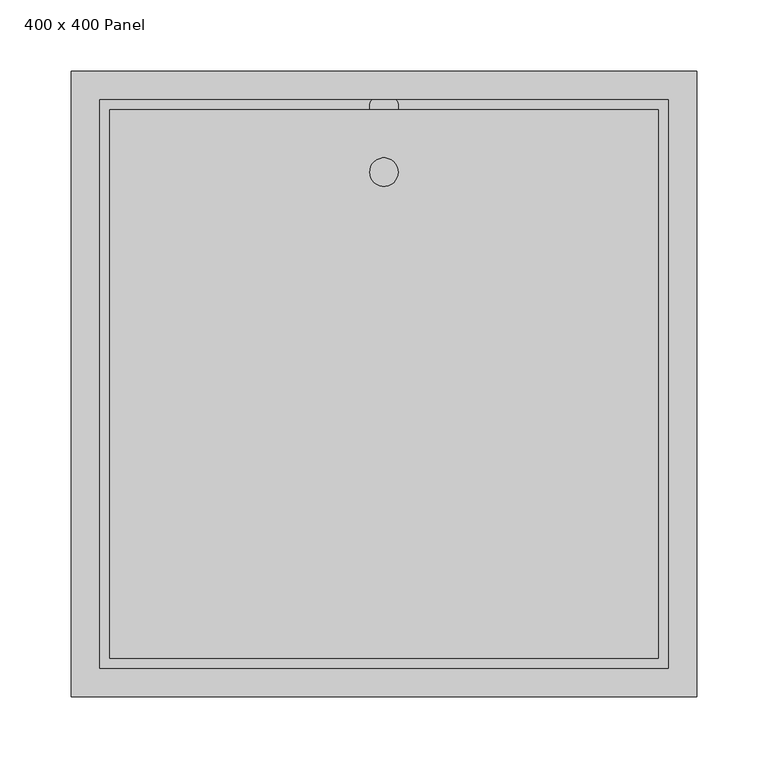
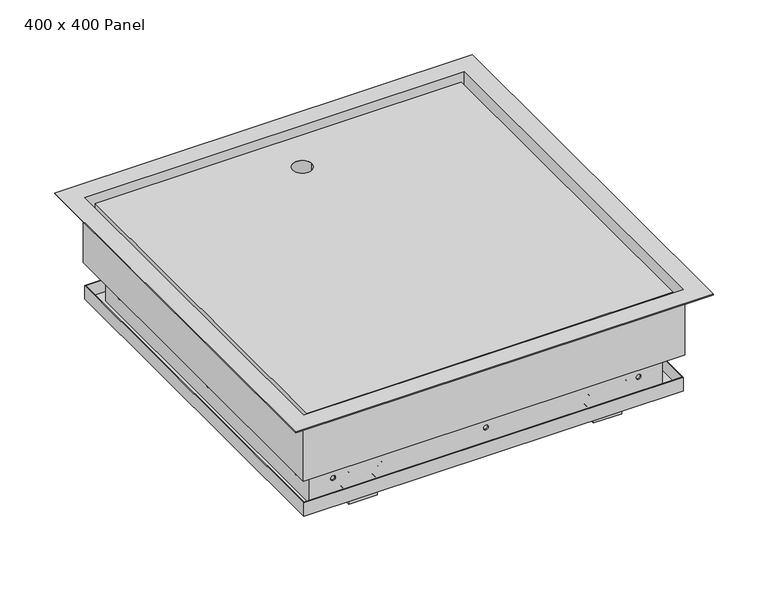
"""IFC4 building model written with IfcOpenShell, lengths in millimetres: proxy geometry, 400 x 400 Fyreshield : 400 x 400 Panel."""

from ifc_helpers import new_model, si_unit, point, frame, frame_2d, origin, place, context, project, spatial, polyline, circle_curve, trimmed, segment, composite_curve, outline, extrude, source, transform, mapped, element, save
from ifc_brep_helpers import plane_surface, revolved_surface, advanced_brep


def proxy_400_x_400_panel_ea238106(model_context):
    return source(origin(), model_context, "Body", "SolidModel", [
        extrude(outline(composite_curve([segment(polyline([(169.0, -45.0), (154.0, -45.0)]), True, "CONTINUOUS"), segment(trimmed(circle_curve(frame_2d((129.0, -45.0)), 25.0), [point((154.0, -45.0))], [point((104.0, -45.0))], False, "CARTESIAN"), True, "CONTINUOUS"), segment(polyline([(104.0, -45.0), (89.0, -45.0), (89.0, -25.0), (129.0, -25.0), (169.0, -25.0), (169.0, -45.0)]), True, "CONTINUOUS")], self_intersect=False)), frame((0.0, 0.0, -73.0), z_axis=(0.0, 0.0, 1.0), x_axis=(1.0, 0.0, 0.0)), (0.0, 0.0, 1.0), 2.0),
        extrude(outline(composite_curve([segment(polyline([(-169.0, -45.0), (-169.0, -25.0), (-129.0, -25.0), (-89.0, -25.0), (-89.0, -45.0), (-104.0, -45.0)]), True, "CONTINUOUS"), segment(trimmed(circle_curve(frame_2d((-129.0, -45.0)), 25.0), [point((-104.0, -45.0))], [point((-154.0, -45.0))], False, "CARTESIAN"), True, "CONTINUOUS"), segment(polyline([(-154.0, -45.0), (-169.0, -45.0)]), True, "CONTINUOUS")], self_intersect=False)), frame((0.0, 0.0, -73.0), z_axis=(0.0, 0.0, 1.0), x_axis=(1.0, 0.0, 0.0)), (0.0, 0.0, 1.0), 2.0),
        extrude(outline(composite_curve([segment(trimmed(circle_curve(frame_2d((-65.0, -79.3136739)), 5.0), [point((-70.0, -79.3136739))], [point((-65.0, -74.3136739))], False, "CARTESIAN"), True, "CONTINUOUS"), segment(polyline([(-65.0, -74.3136739), (-48.5, -72.0), (-34.3304501, -72.0), (-34.3304501, -77.4449364)]), True, "CONTINUOUS"), segment(trimmed(circle_curve(frame_2d((-39.3304501, -77.4449364)), 5.0), [point((-34.3304501, -77.4449364))], [point((-39.3304501, -82.4449364))], False, "CARTESIAN"), True, "CONTINUOUS"), segment(polyline([(-39.3304501, -82.4449364), (-57.5, -82.4449364)]), True, "CONTINUOUS"), segment(trimmed(circle_curve(frame_2d((-57.5, -84.9449364)), 2.5), [point((-57.5, -82.4449364))], [point((-60.0, -84.9449364))], True, "CARTESIAN"), True, "CONTINUOUS"), segment(polyline([(-60.0, -84.9449364), (-60.0, -86.8136739), (-70.0, -86.8136739), (-70.0, -79.3136739)]), True, "CONTINUOUS")], self_intersect=False)), frame((-139.0, 0.0, 0.0), z_axis=(1.0, 0.0, 0.0), x_axis=(0.0, 1.0, 0.0)), (0.0, 0.0, 1.0), 20.0),
        advanced_brep(
        [(143.760434, -85.0, -93.2011546), (143.760434, -80.0, -93.2011546), (148.760434, -80.0, -93.2011546), (148.760434, -85.0, -93.2011546), (148.760434, -85.0, -102.1125194), (148.760434, -80.0, -102.1125194), (148.760434, -80.0, -107.1125194), (148.760434, -85.0, -107.1125194), (143.760434, -80.0, -107.1125194), (143.760434, -85.0, -107.1125194), (143.760434, -80.0, -102.1125194), (143.760434, -85.0, -102.1125194), (114.239566, -85.0, -93.2011546), (114.239566, -80.0, -93.2011546), (109.239566, -80.0, -93.2011546), (109.239566, -85.0, -93.2011546), (109.239566, -85.0, -107.1125194), (109.239566, -80.0, -107.1125194), (109.239566, -80.0, -102.1125194), (109.239566, -85.0, -102.1125194), (114.239566, -85.0, -107.1125194), (114.239566, -80.0, -107.1125194), (114.239566, -85.0, -102.1125194), (114.239566, -80.0, -102.1125194), (139.0, -80.0, -86.8136739), (139.0, -60.0, -86.8136739), (119.0, -60.0, -86.8136739), (119.0, -80.0, -86.8136739), (104.0, -80.0, -86.8136739), (104.0, -85.0, -86.8136739), (154.0, -85.0, -86.8136739), (154.0, -80.0, -86.8136739), (144.0, -80.0, -127.128369), (144.0, -85.0, -127.128369), (114.0, -85.0, -127.128369), (114.0, -80.0, -127.128369), (119.0, -80.0, -127.128369), (119.0, -60.0, -127.128369), (139.0, -60.0, -127.128369), (139.0, -80.0, -127.128369), (144.0, -85.0, -114.5), (146.5, -85.0, -112.0), (154.0, -85.0, -112.0), (104.0, -85.0, -112.0), (111.5, -85.0, -112.0), (114.0, -85.0, -114.5), (114.0, -80.0, -114.5), (111.5, -80.0, -112.0), (104.0, -80.0, -112.0), (154.0, -80.0, -112.0), (146.5, -80.0, -112.0), (144.0, -80.0, -114.5)],
        [
            (0, 1),
            (1, 2, circle_curve(frame((146.260434, -80.0, -93.2011546), z_axis=(0.0, 1.0, 0.0), x_axis=(1.0, 0.0, 0.0)), 2.5)),
            (2, 3),
            (3, 0, circle_curve(frame((146.260434, -85.0, -93.2011546), z_axis=(0.0, -1.0, 0.0), x_axis=(1.0, 0.0, 0.0)), 2.5)),
            (0, 3, circle_curve(frame((146.260434, -85.0, -93.2011546), z_axis=(0.0, -1.0, 0.0), x_axis=(1.0, 0.0, 0.0)), 2.5)),
            (2, 1, circle_curve(frame((146.260434, -80.0, -93.2011546), z_axis=(0.0, 1.0, 0.0), x_axis=(1.0, 0.0, 0.0)), 2.5)),
            (4, 5),
            (5, 6, circle_curve(frame((148.760434, -80.0, -104.6125194), z_axis=(0.0, 1.0, 0.0), x_axis=(1.0, 0.0, 0.0)), 2.5)),
            (6, 7),
            (7, 4, circle_curve(frame((148.760434, -85.0, -104.6125194), z_axis=(0.0, -1.0, 0.0), x_axis=(1.0, 0.0, 0.0)), 2.5)),
            (6, 8),
            (8, 9),
            (9, 7),
            (8, 10, circle_curve(frame((143.760434, -80.0, -104.6125194), z_axis=(0.0, 1.0, 0.0), x_axis=(1.0, 0.0, 0.0)), 2.5)),
            (10, 11),
            (11, 9, circle_curve(frame((143.760434, -85.0, -104.6125194), z_axis=(0.0, -1.0, 0.0), x_axis=(1.0, 0.0, 0.0)), 2.5)),
            (4, 11),
            (10, 5),
            (12, 13),
            (13, 14, circle_curve(frame((111.739566, -80.0, -93.2011546), z_axis=(0.0, 1.0, 0.0), x_axis=(1.0, 0.0, 0.0)), 2.5)),
            (14, 15),
            (15, 12, circle_curve(frame((111.739566, -85.0, -93.2011546), z_axis=(0.0, -1.0, 0.0), x_axis=(1.0, 0.0, 0.0)), 2.5)),
            (12, 15, circle_curve(frame((111.739566, -85.0, -93.2011546), z_axis=(0.0, -1.0, 0.0), x_axis=(1.0, 0.0, 0.0)), 2.5)),
            (14, 13, circle_curve(frame((111.739566, -80.0, -93.2011546), z_axis=(0.0, 1.0, 0.0), x_axis=(1.0, 0.0, 0.0)), 2.5)),
            (16, 17),
            (17, 18, circle_curve(frame((109.239566, -80.0, -104.6125194), z_axis=(0.0, 1.0, 0.0), x_axis=(1.0, 0.0, 0.0)), 2.5)),
            (18, 19),
            (19, 16, circle_curve(frame((109.239566, -85.0, -104.6125194), z_axis=(0.0, -1.0, 0.0), x_axis=(1.0, 0.0, 0.0)), 2.5)),
            (16, 20),
            (20, 21),
            (21, 17),
            (20, 22, circle_curve(frame((114.239566, -85.0, -104.6125194), z_axis=(0.0, -1.0, 0.0), x_axis=(1.0, 0.0, 0.0)), 2.5)),
            (22, 23),
            (23, 21, circle_curve(frame((114.239566, -80.0, -104.6125194), z_axis=(0.0, 1.0, 0.0), x_axis=(1.0, 0.0, 0.0)), 2.5)),
            (18, 23),
            (22, 19),
            (24, 25),
            (25, 26),
            (26, 27),
            (27, 28),
            (28, 29),
            (29, 30),
            (30, 31),
            (31, 24),
            (32, 33),
            (33, 34),
            (34, 35),
            (35, 36),
            (36, 37),
            (37, 38),
            (38, 39),
            (39, 32),
            (33, 40),
            (40, 41, circle_curve(frame((146.5, -85.0, -114.5), z_axis=(0.0, 1.0, 0.0), x_axis=(-1.0, 0.0, 0.0)), 2.5)),
            (41, 42),
            (42, 30),
            (29, 43),
            (43, 44),
            (44, 45, circle_curve(frame((111.5, -85.0, -114.5), z_axis=(0.0, 1.0, 0.0), x_axis=(-1.0, 0.0, 0.0)), 2.5)),
            (45, 34),
            (35, 46),
            (46, 47, circle_curve(frame((111.5, -80.0, -114.5), z_axis=(0.0, -1.0, 0.0), x_axis=(-1.0, 0.0, 0.0)), 2.5)),
            (47, 48),
            (48, 28),
            (27, 36),
            (39, 24),
            (31, 49),
            (49, 50),
            (50, 51, circle_curve(frame((146.5, -80.0, -114.5), z_axis=(0.0, -1.0, 0.0), x_axis=(-1.0, 0.0, 0.0)), 2.5)),
            (51, 32),
            (38, 25),
            (37, 26),
            (45, 46),
            (51, 40),
            (48, 43),
            (44, 47),
            (41, 50),
            (49, 42),
        ],
        [
            revolved_surface(polyline([(148.760434, -85.0, -93.2011546), (148.760434, -80.0, -93.2011546)]), (146.260434, -80.0, -93.2011546), (0.0, -1.0, 0.0)),
            revolved_surface(polyline([(151.260434, -85.0, -104.6125194), (151.260434, -80.0, -104.6125194)]), (148.760434, -80.0, -104.6125194), (0.0, -1.0, 0.0)),
            plane_surface(frame((143.760434, -85.0, -107.1125194), z_axis=(0.0, 0.0, 1.0), x_axis=(0.0, 1.0, 0.0))),
            revolved_surface(polyline([(146.260434, -85.0, -104.6125194), (146.260434, -80.0, -104.6125194)]), (143.760434, -80.0, -104.6125194), (0.0, -1.0, 0.0)),
            plane_surface(frame((148.760434, -85.0, -102.1125194), z_axis=(0.0, 0.0, -1.0), x_axis=(0.0, 1.0, 0.0))),
            revolved_surface(polyline([(114.239566, -85.0, -93.2011546), (114.239566, -80.0, -93.2011546)]), (111.739566, -80.0, -93.2011546), (0.0, -1.0, 0.0)),
            revolved_surface(polyline([(111.739566, -85.0, -104.6125194), (111.739566, -80.0, -104.6125194)]), (109.239566, -80.0, -104.6125194), (0.0, -1.0, 0.0)),
            plane_surface(frame((109.239566, -85.0, -107.1125194), z_axis=(0.0, 0.0, 1.0), x_axis=(0.0, 1.0, 0.0))),
            revolved_surface(polyline([(116.739566, -85.0, -104.6125194), (116.739566, -80.0, -104.6125194)]), (114.239566, -80.0, -104.6125194), (0.0, -1.0, 0.0)),
            plane_surface(frame((114.239566, -85.0, -102.1125194), z_axis=(0.0, 0.0, -1.0), x_axis=(0.0, 1.0, 0.0))),
            plane_surface(frame((-144.0, -85.0, -86.8136739), z_axis=(0.0, 0.0, 1.0), x_axis=(0.0, -1.0, 0.0))),
            plane_surface(frame((-144.0, -85.0, -127.128369), z_axis=(0.0, 0.0, -1.0), x_axis=(0.0, 1.0, 0.0))),
            plane_surface(frame((-144.0, -85.0, -86.8136739), z_axis=(0.0, -1.0, 0.0), x_axis=(0.0, 0.0, -1.0))),
            plane_surface(frame((-114.0, -80.0, -86.8136739), z_axis=(0.0, 1.0, 0.0), x_axis=(0.0, 0.0, -1.0))),
            plane_surface(frame((139.0, -80.0, -86.8136739), z_axis=(1.0, 0.0, 0.0), x_axis=(0.0, 0.0, -1.0))),
            plane_surface(frame((139.0, -60.0, -86.8136739), z_axis=(0.0, 1.0, 0.0), x_axis=(0.0, 0.0, -1.0))),
            plane_surface(frame((119.0, -60.0, -86.8136739), z_axis=(-1.0, 0.0, 0.0), x_axis=(0.0, 0.0, -1.0))),
            plane_surface(frame((114.0, -80.0, -86.8136739), z_axis=(-1.0, 0.0, 0.0), x_axis=(0.0, 0.0, -1.0))),
            plane_surface(frame((144.0, -85.0, -86.8136739), z_axis=(1.0, 0.0, 0.0), x_axis=(0.0, 0.0, -1.0))),
            plane_surface(frame((104.0, -80.0, -112.0), z_axis=(-1.0, 0.0, 0.0), x_axis=(0.0, -1.0, 0.0))),
            revolved_surface(polyline([(109.0, -85.0, -114.5), (109.0, -80.0, -114.5)]), (111.5, -85.0, -114.5), (0.0, -1.0, 0.0)),
            plane_surface(frame((111.5, -80.0, -112.0), z_axis=(0.0, 0.0, -1.0), x_axis=(0.0, -1.0, 0.0))),
            plane_surface(frame((154.0, -80.0, -112.0), z_axis=(0.0, 0.0, -1.0), x_axis=(0.0, -1.0, 0.0))),
            revolved_surface(polyline([(144.0, -85.0, -114.5), (144.0, -80.0, -114.5)]), (146.5, -80.0, -114.5), (0.0, -1.0, 0.0)),
            plane_surface(frame((154.0, -80.0, -86.8136739), z_axis=(1.0, 0.0, 0.0), x_axis=(0.0, -1.0, 0.0))),
        ],
        [
            (0, [[1, 2, 3, 4]]),
            (0, [[-1, 5, -3, 6]]),
            (1, [[7, 8, 9, 10]]),
            (2, [[-9, 11, 12, 13]]),
            (3, [[-12, 14, 15, 16]]),
            (4, [[-7, 17, -15, 18]]),
            (5, [[19, 20, 21, 22]]),
            (5, [[-19, 23, -21, 24]]),
            (6, [[25, 26, 27, 28]]),
            (7, [[-25, 29, 30, 31]]),
            (8, [[-30, 32, 33, 34]]),
            (9, [[-27, 35, -33, 36]]),
            (10, [[37, 38, 39, 40, 41, 42, 43, 44]]),
            (11, [[45, 46, 47, 48, 49, 50, 51, 52]]),
            (12, [[-46, 53, 54, 55, 56, -42, 57, 58, 59, 60], [-4, -5], [-10, -13, -16, -17], [-22, -23], [-28, -36, -32, -29]]),
            (13, [[-48, 61, 62, 63, 64, -40, 65], [-20, -24], [-26, -31, -34, -35]]),
            (13, [[-52, 66, -44, 67, 68, 69, 70], [-2, -6], [-8, -18, -14, -11]]),
            (14, [[-37, -66, -51, 71]]),
            (15, [[-38, -71, -50, 72]]),
            (16, [[-39, -72, -49, -65]]),
            (17, [[-47, -60, 73, -61]]),
            (18, [[-45, -70, 74, -53]]),
            (19, [[-57, -41, -64, 75]]),
            (20, [[-59, 76, -62, -73]]),
            (21, [[-58, -75, -63, -76]]),
            (22, [[-55, 77, -68, 78]]),
            (23, [[-54, -74, -69, -77]]),
            (24, [[-56, -78, -67, -43]]),
        ],
    ),
        advanced_brep(
        [(-119.0, -80.0, -86.8136739), (-119.0, -60.0, -86.8136739), (-139.0, -60.0, -86.8136739), (-139.0, -80.0, -86.8136739), (-154.0, -80.0, -86.8136739), (-154.0, -85.0, -86.8136739), (-104.0, -85.0, -86.8136739), (-104.0, -80.0, -86.8136739), (-144.0, -80.0, -127.128369), (-139.0, -80.0, -127.128369), (-139.0, -60.0, -127.128369), (-119.0, -60.0, -127.128369), (-119.0, -80.0, -127.128369), (-114.0, -80.0, -127.128369), (-114.0, -85.0, -127.128369), (-144.0, -85.0, -127.128369), (-144.0, -85.0, -114.5), (-144.0, -80.0, -114.5), (-114.0, -85.0, -114.5), (-111.5, -85.0, -112.0), (-104.0, -85.0, -112.0), (-154.0, -85.0, -112.0), (-146.5, -85.0, -112.0), (-109.239566, -85.0, -93.2011546), (-114.239566, -85.0, -93.2011546), (-114.239566, -85.0, -102.1125194), (-109.239566, -85.0, -102.1125194), (-109.239566, -85.0, -107.1125194), (-114.239566, -85.0, -107.1125194), (-143.760434, -85.0, -93.2011546), (-148.760434, -85.0, -93.2011546), (-148.760434, -85.0, -107.1125194), (-148.760434, -85.0, -102.1125194), (-143.760434, -85.0, -102.1125194), (-143.760434, -85.0, -107.1125194), (-114.0, -80.0, -114.5), (-146.5, -80.0, -112.0), (-154.0, -80.0, -112.0), (-148.760434, -80.0, -93.2011546), (-143.760434, -80.0, -93.2011546), (-148.760434, -80.0, -102.1125194), (-148.760434, -80.0, -107.1125194), (-143.760434, -80.0, -107.1125194), (-143.760434, -80.0, -102.1125194), (-104.0, -80.0, -112.0), (-111.5, -80.0, -112.0), (-114.239566, -80.0, -93.2011546), (-109.239566, -80.0, -93.2011546), (-109.239566, -80.0, -102.1125194), (-114.239566, -80.0, -102.1125194), (-114.239566, -80.0, -107.1125194), (-109.239566, -80.0, -107.1125194)],
        [
            (0, 1),
            (1, 2),
            (2, 3),
            (3, 4),
            (4, 5),
            (5, 6),
            (6, 7),
            (7, 0),
            (8, 9),
            (9, 10),
            (10, 11),
            (11, 12),
            (12, 13),
            (13, 14),
            (14, 15),
            (15, 8),
            (15, 16),
            (16, 17),
            (17, 8),
            (14, 18),
            (18, 19, circle_curve(frame((-111.5, -85.0, -114.5), z_axis=(0.0, 1.0, 0.0), x_axis=(-1.0, 0.0, 0.0)), 2.5)),
            (19, 20),
            (20, 6),
            (5, 21),
            (21, 22),
            (22, 16, circle_curve(frame((-146.5, -85.0, -114.5), z_axis=(0.0, 1.0, 0.0), x_axis=(-1.0, 0.0, 0.0)), 2.5)),
            (23, 24, circle_curve(frame((-111.739566, -85.0, -93.2011546), z_axis=(0.0, 1.0, 0.0), x_axis=(1.0, 0.0, 0.0)), 2.5)),
            (24, 23, circle_curve(frame((-111.739566, -85.0, -93.2011546), z_axis=(0.0, 1.0, 0.0), x_axis=(1.0, 0.0, 0.0)), 2.5)),
            (25, 26),
            (26, 27, circle_curve(frame((-109.239566, -85.0, -104.6125194), z_axis=(0.0, 1.0, 0.0), x_axis=(1.0, 0.0, 0.0)), 2.5)),
            (27, 28),
            (28, 25, circle_curve(frame((-114.239566, -85.0, -104.6125194), z_axis=(0.0, 1.0, 0.0), x_axis=(1.0, 0.0, 0.0)), 2.5)),
            (29, 30, circle_curve(frame((-146.260434, -85.0, -93.2011546), z_axis=(0.0, 1.0, 0.0), x_axis=(1.0, 0.0, 0.0)), 2.5)),
            (30, 29, circle_curve(frame((-146.260434, -85.0, -93.2011546), z_axis=(0.0, 1.0, 0.0), x_axis=(1.0, 0.0, 0.0)), 2.5)),
            (31, 32, circle_curve(frame((-148.760434, -85.0, -104.6125194), z_axis=(0.0, 1.0, 0.0), x_axis=(1.0, 0.0, 0.0)), 2.5)),
            (32, 33),
            (33, 34, circle_curve(frame((-143.760434, -85.0, -104.6125194), z_axis=(0.0, 1.0, 0.0), x_axis=(1.0, 0.0, 0.0)), 2.5)),
            (34, 31),
            (13, 35),
            (35, 18),
            (17, 36, circle_curve(frame((-146.5, -80.0, -114.5), z_axis=(0.0, -1.0, 0.0), x_axis=(-1.0, 0.0, 0.0)), 2.5)),
            (36, 37),
            (37, 4),
            (3, 9),
            (38, 39, circle_curve(frame((-146.260434, -80.0, -93.2011546), z_axis=(0.0, -1.0, 0.0), x_axis=(1.0, 0.0, 0.0)), 2.5)),
            (39, 38, circle_curve(frame((-146.260434, -80.0, -93.2011546), z_axis=(0.0, -1.0, 0.0), x_axis=(1.0, 0.0, 0.0)), 2.5)),
            (40, 41, circle_curve(frame((-148.760434, -80.0, -104.6125194), z_axis=(0.0, -1.0, 0.0), x_axis=(1.0, 0.0, 0.0)), 2.5)),
            (41, 42),
            (42, 43, circle_curve(frame((-143.760434, -80.0, -104.6125194), z_axis=(0.0, -1.0, 0.0), x_axis=(1.0, 0.0, 0.0)), 2.5)),
            (43, 40),
            (12, 0),
            (7, 44),
            (44, 45),
            (45, 35, circle_curve(frame((-111.5, -80.0, -114.5), z_axis=(0.0, -1.0, 0.0), x_axis=(-1.0, 0.0, 0.0)), 2.5)),
            (46, 47, circle_curve(frame((-111.739566, -80.0, -93.2011546), z_axis=(0.0, -1.0, 0.0), x_axis=(1.0, 0.0, 0.0)), 2.5)),
            (47, 46, circle_curve(frame((-111.739566, -80.0, -93.2011546), z_axis=(0.0, -1.0, 0.0), x_axis=(1.0, 0.0, 0.0)), 2.5)),
            (48, 49),
            (49, 50, circle_curve(frame((-114.239566, -80.0, -104.6125194), z_axis=(0.0, -1.0, 0.0), x_axis=(1.0, 0.0, 0.0)), 2.5)),
            (50, 51),
            (51, 48, circle_curve(frame((-109.239566, -80.0, -104.6125194), z_axis=(0.0, -1.0, 0.0), x_axis=(1.0, 0.0, 0.0)), 2.5)),
            (11, 1),
            (10, 2),
            (23, 47),
            (46, 24),
            (25, 49),
            (48, 26),
            (28, 50),
            (27, 51),
            (29, 39),
            (38, 30),
            (31, 41),
            (40, 32),
            (34, 42),
            (33, 43),
            (37, 21),
            (22, 36),
            (19, 45),
            (44, 20),
        ],
        [
            plane_surface(frame((-144.0, -85.0, -86.8136739), z_axis=(0.0, 0.0, 1.0), x_axis=(0.0, -1.0, 0.0))),
            plane_surface(frame((-144.0, -85.0, -127.128369), z_axis=(0.0, 0.0, -1.0), x_axis=(0.0, 1.0, 0.0))),
            plane_surface(frame((-144.0, -80.0, -86.8136739), z_axis=(-1.0, 0.0, 0.0), x_axis=(0.0, 0.0, -1.0))),
            plane_surface(frame((-144.0, -85.0, -86.8136739), z_axis=(0.0, -1.0, 0.0), x_axis=(0.0, 0.0, -1.0))),
            plane_surface(frame((-114.0, -85.0, -86.8136739), z_axis=(1.0, 0.0, 0.0), x_axis=(0.0, 0.0, -1.0))),
            plane_surface(frame((-114.0, -80.0, -86.8136739), z_axis=(0.0, 1.0, 0.0), x_axis=(0.0, 0.0, -1.0))),
            plane_surface(frame((-119.0, -80.0, -86.8136739), z_axis=(1.0, 0.0, 0.0), x_axis=(0.0, 0.0, -1.0))),
            plane_surface(frame((-119.0, -60.0, -86.8136739), z_axis=(0.0, 1.0, 0.0), x_axis=(0.0, 0.0, -1.0))),
            plane_surface(frame((-139.0, -60.0, -86.8136739), z_axis=(-1.0, 0.0, 0.0), x_axis=(0.0, 0.0, -1.0))),
            revolved_surface(polyline([(-109.239566, -85.0, -93.2011546), (-109.239566, -80.0, -93.2011546)]), (-111.739566, -80.0, -93.2011546), (0.0, -1.0, 0.0)),
            plane_surface(frame((-109.239566, -85.0, -102.1125194), z_axis=(0.0, 0.0, -1.0), x_axis=(0.0, 1.0, 0.0))),
            revolved_surface(polyline([(-111.739566, -85.0, -104.6125194), (-111.739566, -80.0, -104.6125194)]), (-114.239566, -80.0, -104.6125194), (0.0, -1.0, 0.0)),
            plane_surface(frame((-114.239566, -85.0, -107.1125194), z_axis=(0.0, 0.0, 1.0), x_axis=(0.0, 1.0, 0.0))),
            revolved_surface(polyline([(-106.739566, -85.0, -104.6125194), (-106.739566, -80.0, -104.6125194)]), (-109.239566, -80.0, -104.6125194), (0.0, -1.0, 0.0)),
            revolved_surface(polyline([(-143.760434, -85.0, -93.2011546), (-143.760434, -80.0, -93.2011546)]), (-146.260434, -80.0, -93.2011546), (0.0, -1.0, 0.0)),
            revolved_surface(polyline([(-146.260434, -85.0, -104.6125194), (-146.260434, -80.0, -104.6125194)]), (-148.760434, -80.0, -104.6125194), (0.0, -1.0, 0.0)),
            plane_surface(frame((-148.760434, -85.0, -107.1125194), z_axis=(0.0, 0.0, 1.0), x_axis=(0.0, 1.0, 0.0))),
            revolved_surface(polyline([(-141.260434, -85.0, -104.6125194), (-141.260434, -80.0, -104.6125194)]), (-143.760434, -80.0, -104.6125194), (0.0, -1.0, 0.0)),
            plane_surface(frame((-143.760434, -85.0, -102.1125194), z_axis=(0.0, 0.0, -1.0), x_axis=(0.0, 1.0, 0.0))),
            plane_surface(frame((-154.0, -80.0, -112.0), z_axis=(-1.0, 0.0, 0.0), x_axis=(0.0, -1.0, 0.0))),
            revolved_surface(polyline([(-149.0, -85.0, -114.5), (-149.0, -80.0, -114.5)]), (-146.5, -80.0, -114.5), (0.0, -1.0, 0.0)),
            plane_surface(frame((-146.5, -80.0, -112.0), z_axis=(0.0, 0.0, -1.0), x_axis=(0.0, -1.0, 0.0))),
            plane_surface(frame((-104.0, -80.0, -112.0), z_axis=(0.0, 0.0, -1.0), x_axis=(0.0, -1.0, 0.0))),
            revolved_surface(polyline([(-114.0, -85.0, -114.5), (-114.0, -80.0, -114.5)]), (-111.5, -80.0, -114.5), (0.0, -1.0, 0.0)),
            plane_surface(frame((-104.0, -80.0, -86.8136739), z_axis=(1.0, 0.0, 0.0), x_axis=(0.0, -1.0, 0.0))),
        ],
        [
            (0, [[1, 2, 3, 4, 5, 6, 7, 8]]),
            (1, [[9, 10, 11, 12, 13, 14, 15, 16]]),
            (2, [[-16, 17, 18, 19]]),
            (3, [[-15, 20, 21, 22, 23, -6, 24, 25, 26, -17], [27, 28], [29, 30, 31, 32], [33, 34], [35, 36, 37, 38]]),
            (4, [[-14, 39, 40, -20]]),
            (5, [[-9, -19, 41, 42, 43, -4, 44], [45, 46], [47, 48, 49, 50]]),
            (5, [[-13, 51, -8, 52, 53, 54, -39], [55, 56], [57, 58, 59, 60]]),
            (6, [[-1, -51, -12, 61]]),
            (7, [[-2, -61, -11, 62]]),
            (8, [[-3, -62, -10, -44]]),
            (9, [[63, -55, 64, -27]]),
            (9, [[-63, -28, -64, -56]]),
            (10, [[65, -57, 66, -29]]),
            (11, [[-65, -32, 67, -58]]),
            (12, [[-67, -31, 68, -59]]),
            (13, [[-66, -60, -68, -30]]),
            (14, [[69, -45, 70, -33]]),
            (14, [[-69, -34, -70, -46]]),
            (15, [[71, -47, 72, -35]]),
            (16, [[-71, -38, 73, -48]]),
            (17, [[-73, -37, 74, -49]]),
            (18, [[-72, -50, -74, -36]]),
            (19, [[-24, -5, -43, 75]]),
            (20, [[-26, 76, -41, -18]]),
            (21, [[-25, -75, -42, -76]]),
            (22, [[-22, 77, -53, 78]]),
            (23, [[-21, -40, -54, -77]]),
            (24, [[-23, -78, -52, -7]]),
        ],
    ),
        extrude(outline(composite_curve([segment(polyline([(179.0, 279.0), (179.0, -79.0), (149.0, -79.0), (149.0, -59.0)]), True, "CONTINUOUS"), segment(trimmed(circle_curve(frame_2d((129.0, -59.0)), 20.0), [point((149.0, -59.0))], [point((109.0, -59.0))], True, "CARTESIAN"), True, "CONTINUOUS"), segment(polyline([(109.0, -59.0), (109.0, -79.0), (-109.0, -79.0), (-109.0, -59.0)]), True, "CONTINUOUS"), segment(trimmed(circle_curve(frame_2d((-129.0, -59.0)), 20.0), [point((-109.0, -59.0))], [point((-149.0, -59.0))], True, "CARTESIAN"), True, "CONTINUOUS"), segment(polyline([(-149.0, -59.0), (-149.0, -79.0), (-179.0, -79.0), (-179.0, 279.0), (179.0, 279.0)]), True, "CONTINUOUS")], self_intersect=False)), frame((0.0, 0.0, -107.2487382), z_axis=(0.0, 0.0, 1.0), x_axis=(1.0, 0.0, 0.0)), (0.0, 0.0, 1.0), 36.2487382),
        extrude(outline(polyline([(193.0, 293.0), (193.0, -93.0), (-193.0, -93.0), (-193.0, 293.0), (193.0, 293.0)]), holes=[composite_curve([segment(trimmed(circle_curve(frame_2d((0.0, 249.0)), 10.0), [point((-10.0, 249.0))], [point((10.0, 249.0))], True, "CARTESIAN"), True, "CONTINUOUS"), segment(trimmed(circle_curve(frame_2d((0.0, 249.0)), 10.0), [point((10.0, 249.0))], [point((-10.0, 249.0))], True, "CARTESIAN"), True, "CONTINUOUS")], self_intersect=False)]), frame((0.0, 0.0, -71.0), z_axis=(0.0, 0.0, 1.0), x_axis=(1.0, 0.0, 0.0)), (0.0, 0.0, 1.0), 67.0),
        extrude(outline(composite_curve([segment(trimmed(circle_curve(frame_2d((-65.0, -79.3136739)), 5.0), [point((-70.0, -79.3136739))], [point((-65.0, -74.3136739))], False, "CARTESIAN"), True, "CONTINUOUS"), segment(polyline([(-65.0, -74.3136739), (-48.5, -72.0), (-34.3304501, -72.0), (-34.3304501, -77.4449364)]), True, "CONTINUOUS"), segment(trimmed(circle_curve(frame_2d((-39.3304501, -77.4449364)), 5.0), [point((-34.3304501, -77.4449364))], [point((-39.3304501, -82.4449364))], False, "CARTESIAN"), True, "CONTINUOUS"), segment(polyline([(-39.3304501, -82.4449364), (-57.5, -82.4449364)]), True, "CONTINUOUS"), segment(trimmed(circle_curve(frame_2d((-57.5, -84.9449364)), 2.5), [point((-57.5, -82.4449364))], [point((-60.0, -84.9449364))], True, "CARTESIAN"), True, "CONTINUOUS"), segment(polyline([(-60.0, -84.9449364), (-60.0, -86.8136739), (-70.0, -86.8136739), (-70.0, -79.3136739)]), True, "CONTINUOUS")], self_intersect=False)), frame((119.0, 0.0, 0.0), z_axis=(1.0, 0.0, 0.0), x_axis=(0.0, 1.0, 0.0)), (0.0, 0.0, 1.0), 20.0),
        extrude(outline(composite_curve([segment(polyline([(10.0, 279.0), (-10.0, 279.0), (-10.0, 296.0)]), True, "CONTINUOUS"), segment(trimmed(circle_curve(frame_2d((-5.0, 296.0)), 5.0), [point((-10.0, 296.0))], [point((-5.0, 301.0))], False, "CARTESIAN"), True, "CONTINUOUS"), segment(polyline([(-5.0, 301.0), (5.0, 301.0)]), True, "CONTINUOUS"), segment(trimmed(circle_curve(frame_2d((5.0, 296.0)), 5.0), [point((5.0, 301.0))], [point((10.0, 296.0))], False, "CARTESIAN"), True, "CONTINUOUS"), segment(polyline([(10.0, 296.0), (10.0, 279.0)]), True, "CONTINUOUS")], self_intersect=False)), frame((0.0, 0.0, -49.5), z_axis=(0.0, 0.0, 1.0), x_axis=(1.0, 0.0, 0.0)), (0.0, 0.0, 1.0), 5.0),
        advanced_brep(
        [(220.0, 320.0, 0.0), (220.0, 320.0, 1.0), (220.0, -120.0, 1.0), (220.0, -120.0, 0.0), (201.0, 301.0, -72.0), (201.0, 301.0, 0.0), (201.0, -101.0, 0.0), (201.0, -101.0, -72.0), (186.0, 286.0, -111.0), (186.0, 286.0, -72.0), (186.0, -86.0, -72.0), (186.0, -86.0, -111.0), (186.0, -63.5, -91.5), (186.0, -58.5, -91.5), (186.0, 258.5, -91.5), (186.0, 263.5, -91.5), (186.0, 97.5, -91.5), (186.0, 102.5, -91.5), (199.0, 299.0, -97.0), (199.0, 299.0, -111.0), (199.0, -99.0, -111.0), (199.0, -99.0, -97.0), (200.0, 300.0, -112.0), (200.0, 300.0, -97.0), (200.0, -100.0, -97.0), (200.0, -100.0, -112.0), (185.0, 285.0, -71.0), (185.0, 285.0, -112.0), (185.0, -85.0, -112.0), (185.0, -85.0, -71.0), (185.0, -58.5, -91.5), (185.0, -63.5, -91.5), (185.0, 263.5, -91.5), (185.0, 258.5, -91.5), (185.0, 102.5, -91.5), (185.0, 97.5, -91.5), (200.0, 300.0, 1.0), (200.0, 300.0, -71.0), (200.0, -100.0, -71.0), (200.0, -100.0, 1.0), (-220.0, -120.0, 1.0), (-220.0, -120.0, 0.0), (-201.0, -101.0, 0.0), (-201.0, -101.0, -72.0), (-186.0, -86.0, -72.0), (-186.0, -86.0, -111.0), (-163.5, -86.0, -91.5), (-158.5, -86.0, -91.5), (158.5, -86.0, -91.5), (163.5, -86.0, -91.5), (-2.5, -86.0, -91.5), (2.5, -86.0, -91.5), (-199.0, -99.0, -111.0), (-199.0, -99.0, -97.0), (-200.0, -100.0, -97.0), (-200.0, -100.0, -112.0), (-185.0, -85.0, -112.0), (-185.0, -85.0, -71.0), (-158.5, -85.0, -91.5), (-163.5, -85.0, -91.5), (163.5, -85.0, -91.5), (158.5, -85.0, -91.5), (2.5, -85.0, -91.5), (-2.5, -85.0, -91.5), (-200.0, -100.0, -71.0), (-200.0, -100.0, 1.0), (-220.0, 320.0, 1.0), (-220.0, 320.0, 0.0), (-201.0, 301.0, 0.0), (-201.0, 301.0, -72.0), (-186.0, 286.0, -72.0), (-186.0, 286.0, -111.0), (-186.0, 263.5, -91.5), (-186.0, 258.5, -91.5), (-186.0, -58.5, -91.5), (-186.0, -63.5, -91.5), (-186.0, 102.5, -91.5), (-186.0, 97.5, -91.5), (-199.0, 299.0, -111.0), (-199.0, 299.0, -97.0), (-200.0, 300.0, -97.0), (-200.0, 300.0, -112.0), (-185.0, 285.0, -112.0), (-185.0, 285.0, -71.0), (-185.0, 258.5, -91.5), (-185.0, 263.5, -91.5), (-185.0, -63.5, -91.5), (-185.0, -58.5, -91.5), (-185.0, 97.5, -91.5), (-185.0, 102.5, -91.5), (-200.0, 300.0, -71.0), (-200.0, 300.0, 1.0), (30.9960275, 286.0, -72.0), (30.9960275, 285.0, -72.0), (-30.9960275, 285.0, -72.0), (-30.9960275, 286.0, -72.0), (-30.9960275, 286.0, -82.0), (30.9960275, 286.0, -82.0), (163.5, 286.0, -91.5), (158.5, 286.0, -91.5), (-158.5, 286.0, -91.5), (-163.5, 286.0, -91.5), (2.5, 286.0, -91.5), (-2.5, 286.0, -91.5), (158.5, 285.0, -91.5), (163.5, 285.0, -91.5), (-163.5, 285.0, -91.5), (-158.5, 285.0, -91.5), (-2.5, 285.0, -91.5), (2.5, 285.0, -91.5), (30.9960275, 285.0, -82.0), (-30.9960275, 285.0, -82.0)],
        [
            (0, 1),
            (1, 2),
            (2, 3),
            (3, 0),
            (4, 5),
            (5, 6),
            (6, 7),
            (7, 4),
            (8, 9),
            (9, 10),
            (10, 11),
            (11, 8),
            (12, 13, circle_curve(frame((186.0, -61.0, -91.5), z_axis=(-1.0, 0.0, 0.0), x_axis=(0.0, -1.0, 0.0)), 2.5)),
            (13, 12, circle_curve(frame((186.0, -61.0, -91.5), z_axis=(-1.0, 0.0, 0.0), x_axis=(0.0, -1.0, 0.0)), 2.5)),
            (14, 15, circle_curve(frame((186.0, 261.0, -91.5), z_axis=(-1.0, 0.0, 0.0), x_axis=(0.0, -1.0, 0.0)), 2.5)),
            (15, 14, circle_curve(frame((186.0, 261.0, -91.5), z_axis=(-1.0, 0.0, 0.0), x_axis=(0.0, -1.0, 0.0)), 2.5)),
            (16, 17, circle_curve(frame((186.0, 100.0, -91.5), z_axis=(-1.0, 0.0, 0.0), x_axis=(0.0, -1.0, 0.0)), 2.5)),
            (17, 16, circle_curve(frame((186.0, 100.0, -91.5), z_axis=(-1.0, 0.0, 0.0), x_axis=(0.0, -1.0, 0.0)), 2.5)),
            (18, 19),
            (19, 20),
            (20, 21),
            (21, 18),
            (22, 23),
            (23, 24),
            (24, 25),
            (25, 22),
            (26, 27),
            (27, 28),
            (28, 29),
            (29, 26),
            (30, 31, circle_curve(frame((185.0, -61.0, -91.5), z_axis=(1.0, 0.0, 0.0), x_axis=(0.0, -1.0, 0.0)), 2.5)),
            (31, 30, circle_curve(frame((185.0, -61.0, -91.5), z_axis=(1.0, 0.0, 0.0), x_axis=(0.0, -1.0, 0.0)), 2.5)),
            (32, 33, circle_curve(frame((185.0, 261.0, -91.5), z_axis=(1.0, 0.0, 0.0), x_axis=(0.0, -1.0, 0.0)), 2.5)),
            (33, 32, circle_curve(frame((185.0, 261.0, -91.5), z_axis=(1.0, 0.0, 0.0), x_axis=(0.0, -1.0, 0.0)), 2.5)),
            (34, 35, circle_curve(frame((185.0, 100.0, -91.5), z_axis=(1.0, 0.0, 0.0), x_axis=(0.0, -1.0, 0.0)), 2.5)),
            (35, 34, circle_curve(frame((185.0, 100.0, -91.5), z_axis=(1.0, 0.0, 0.0), x_axis=(0.0, -1.0, 0.0)), 2.5)),
            (36, 37),
            (37, 38),
            (38, 39),
            (39, 36),
            (2, 40),
            (40, 41),
            (41, 3),
            (6, 42),
            (42, 43),
            (43, 7),
            (10, 44),
            (44, 45),
            (45, 11),
            (46, 47, circle_curve(frame((-161.0, -86.0, -91.5), z_axis=(0.0, 1.0, 0.0), x_axis=(-1.0, 0.0, 0.0)), 2.5)),
            (47, 46, circle_curve(frame((-161.0, -86.0, -91.5), z_axis=(0.0, 1.0, 0.0), x_axis=(-1.0, 0.0, 0.0)), 2.5)),
            (48, 49, circle_curve(frame((161.0, -86.0, -91.5), z_axis=(0.0, 1.0, 0.0), x_axis=(-1.0, 0.0, 0.0)), 2.5)),
            (49, 48, circle_curve(frame((161.0, -86.0, -91.5), z_axis=(0.0, 1.0, 0.0), x_axis=(-1.0, 0.0, 0.0)), 2.5)),
            (50, 51, circle_curve(frame((0.0, -86.0, -91.5), z_axis=(0.0, 1.0, 0.0), x_axis=(-1.0, 0.0, 0.0)), 2.5)),
            (51, 50, circle_curve(frame((0.0, -86.0, -91.5), z_axis=(0.0, 1.0, 0.0), x_axis=(-1.0, 0.0, 0.0)), 2.5)),
            (20, 52),
            (52, 53),
            (53, 21),
            (24, 54),
            (54, 55),
            (55, 25),
            (28, 56),
            (56, 57),
            (57, 29),
            (58, 59, circle_curve(frame((-161.0, -85.0, -91.5), z_axis=(0.0, -1.0, 0.0), x_axis=(-1.0, 0.0, 0.0)), 2.5)),
            (59, 58, circle_curve(frame((-161.0, -85.0, -91.5), z_axis=(0.0, -1.0, 0.0), x_axis=(-1.0, 0.0, 0.0)), 2.5)),
            (60, 61, circle_curve(frame((161.0, -85.0, -91.5), z_axis=(0.0, -1.0, 0.0), x_axis=(-1.0, 0.0, 0.0)), 2.5)),
            (61, 60, circle_curve(frame((161.0, -85.0, -91.5), z_axis=(0.0, -1.0, 0.0), x_axis=(-1.0, 0.0, 0.0)), 2.5)),
            (62, 63, circle_curve(frame((0.0, -85.0, -91.5), z_axis=(0.0, -1.0, 0.0), x_axis=(-1.0, 0.0, 0.0)), 2.5)),
            (63, 62, circle_curve(frame((0.0, -85.0, -91.5), z_axis=(0.0, -1.0, 0.0), x_axis=(-1.0, 0.0, 0.0)), 2.5)),
            (38, 64),
            (64, 65),
            (65, 39),
            (40, 66),
            (66, 67),
            (67, 41),
            (42, 68),
            (68, 69),
            (69, 43),
            (44, 70),
            (70, 71),
            (71, 45),
            (72, 73, circle_curve(frame((-186.0, 261.0, -91.5), z_axis=(1.0, 0.0, 0.0), x_axis=(0.0, 1.0, 0.0)), 2.5)),
            (73, 72, circle_curve(frame((-186.0, 261.0, -91.5), z_axis=(1.0, 0.0, 0.0), x_axis=(0.0, 1.0, 0.0)), 2.5)),
            (74, 75, circle_curve(frame((-186.0, -61.0, -91.5), z_axis=(1.0, 0.0, 0.0), x_axis=(0.0, 1.0, 0.0)), 2.5)),
            (75, 74, circle_curve(frame((-186.0, -61.0, -91.5), z_axis=(1.0, 0.0, 0.0), x_axis=(0.0, 1.0, 0.0)), 2.5)),
            (76, 77, circle_curve(frame((-186.0, 100.0, -91.5), z_axis=(1.0, 0.0, 0.0), x_axis=(0.0, 1.0, 0.0)), 2.5)),
            (77, 76, circle_curve(frame((-186.0, 100.0, -91.5), z_axis=(1.0, 0.0, 0.0), x_axis=(0.0, 1.0, 0.0)), 2.5)),
            (52, 78),
            (78, 79),
            (79, 53),
            (54, 80),
            (80, 81),
            (81, 55),
            (56, 82),
            (82, 83),
            (83, 57),
            (84, 85, circle_curve(frame((-185.0, 261.0, -91.5), z_axis=(-1.0, 0.0, 0.0), x_axis=(0.0, 1.0, 0.0)), 2.5)),
            (85, 84, circle_curve(frame((-185.0, 261.0, -91.5), z_axis=(-1.0, 0.0, 0.0), x_axis=(0.0, 1.0, 0.0)), 2.5)),
            (86, 87, circle_curve(frame((-185.0, -61.0, -91.5), z_axis=(-1.0, 0.0, 0.0), x_axis=(0.0, 1.0, 0.0)), 2.5)),
            (87, 86, circle_curve(frame((-185.0, -61.0, -91.5), z_axis=(-1.0, 0.0, 0.0), x_axis=(0.0, 1.0, 0.0)), 2.5)),
            (88, 89, circle_curve(frame((-185.0, 100.0, -91.5), z_axis=(-1.0, 0.0, 0.0), x_axis=(0.0, 1.0, 0.0)), 2.5)),
            (89, 88, circle_curve(frame((-185.0, 100.0, -91.5), z_axis=(-1.0, 0.0, 0.0), x_axis=(0.0, 1.0, 0.0)), 2.5)),
            (64, 90),
            (90, 91),
            (91, 65),
            (0, 67),
            (66, 1),
            (5, 68),
            (4, 69),
            (9, 92),
            (92, 93),
            (93, 94),
            (94, 95),
            (95, 70),
            (8, 71),
            (95, 96),
            (96, 97),
            (97, 92),
            (98, 99, circle_curve(frame((161.0, 286.0, -91.5), z_axis=(0.0, -1.0, 0.0), x_axis=(1.0, 0.0, 0.0)), 2.5)),
            (99, 98, circle_curve(frame((161.0, 286.0, -91.5), z_axis=(0.0, -1.0, 0.0), x_axis=(1.0, 0.0, 0.0)), 2.5)),
            (100, 101, circle_curve(frame((-161.0, 286.0, -91.5), z_axis=(0.0, -1.0, 0.0), x_axis=(1.0, 0.0, 0.0)), 2.5)),
            (101, 100, circle_curve(frame((-161.0, 286.0, -91.5), z_axis=(0.0, -1.0, 0.0), x_axis=(1.0, 0.0, 0.0)), 2.5)),
            (102, 103, circle_curve(frame((0.0, 286.0, -91.5), z_axis=(0.0, -1.0, 0.0), x_axis=(1.0, 0.0, 0.0)), 2.5)),
            (103, 102, circle_curve(frame((0.0, 286.0, -91.5), z_axis=(0.0, -1.0, 0.0), x_axis=(1.0, 0.0, 0.0)), 2.5)),
            (19, 78),
            (18, 79),
            (23, 80),
            (22, 81),
            (27, 82),
            (26, 83),
            (104, 105, circle_curve(frame((161.0, 285.0, -91.5), z_axis=(0.0, 1.0, 0.0), x_axis=(1.0, 0.0, 0.0)), 2.5)),
            (105, 104, circle_curve(frame((161.0, 285.0, -91.5), z_axis=(0.0, 1.0, 0.0), x_axis=(1.0, 0.0, 0.0)), 2.5)),
            (106, 107, circle_curve(frame((-161.0, 285.0, -91.5), z_axis=(0.0, 1.0, 0.0), x_axis=(1.0, 0.0, 0.0)), 2.5)),
            (107, 106, circle_curve(frame((-161.0, 285.0, -91.5), z_axis=(0.0, 1.0, 0.0), x_axis=(1.0, 0.0, 0.0)), 2.5)),
            (108, 109, circle_curve(frame((0.0, 285.0, -91.5), z_axis=(0.0, 1.0, 0.0), x_axis=(1.0, 0.0, 0.0)), 2.5)),
            (109, 108, circle_curve(frame((0.0, 285.0, -91.5), z_axis=(0.0, 1.0, 0.0), x_axis=(1.0, 0.0, 0.0)), 2.5)),
            (93, 110),
            (110, 111),
            (111, 94),
            (37, 90),
            (36, 91),
            (98, 105),
            (104, 99),
            (100, 107),
            (106, 101),
            (72, 85),
            (84, 73),
            (74, 87),
            (86, 75),
            (12, 31),
            (30, 13),
            (14, 33),
            (32, 15),
            (46, 59),
            (58, 47),
            (48, 61),
            (60, 49),
            (102, 109),
            (108, 103),
            (76, 89),
            (88, 77),
            (16, 35),
            (34, 17),
            (50, 63),
            (62, 51),
            (97, 110),
            (111, 96),
        ],
        [
            plane_surface(frame((220.0, 320.0, 1.0), z_axis=(1.0, 0.0, 0.0), x_axis=(0.0, -1.0, 0.0))),
            plane_surface(frame((201.0, 301.0, 0.0), z_axis=(1.0, 0.0, 0.0), x_axis=(0.0, -1.0, 0.0))),
            plane_surface(frame((186.0, 286.0, -72.0), z_axis=(1.0, 0.0, 0.0), x_axis=(0.0, -1.0, 0.0))),
            plane_surface(frame((199.0, 299.0, -111.0), z_axis=(-1.0, 0.0, 0.0), x_axis=(0.0, -1.0, 0.0))),
            plane_surface(frame((200.0, 300.0, -97.0), z_axis=(1.0, 0.0, 0.0), x_axis=(0.0, -1.0, 0.0))),
            plane_surface(frame((185.0, 285.0, -112.0), z_axis=(-1.0, 0.0, 0.0), x_axis=(0.0, -1.0, 0.0))),
            plane_surface(frame((200.0, 300.0, -71.0), z_axis=(-1.0, 0.0, 0.0), x_axis=(0.0, -1.0, 0.0))),
            plane_surface(frame((220.0, -120.0, 1.0), z_axis=(0.0, -1.0, 0.0), x_axis=(-1.0, 0.0, 0.0))),
            plane_surface(frame((201.0, -101.0, 0.0), z_axis=(0.0, -1.0, 0.0), x_axis=(-1.0, 0.0, 0.0))),
            plane_surface(frame((186.0, -86.0, -72.0), z_axis=(0.0, -1.0, 0.0), x_axis=(-1.0, 0.0, 0.0))),
            plane_surface(frame((199.0, -99.0, -111.0), z_axis=(0.0, 1.0, 0.0), x_axis=(-1.0, 0.0, 0.0))),
            plane_surface(frame((200.0, -100.0, -97.0), z_axis=(0.0, -1.0, 0.0), x_axis=(-1.0, 0.0, 0.0))),
            plane_surface(frame((185.0, -85.0, -112.0), z_axis=(0.0, 1.0, 0.0), x_axis=(-1.0, 0.0, 0.0))),
            plane_surface(frame((200.0, -100.0, -71.0), z_axis=(0.0, 1.0, 0.0), x_axis=(-1.0, 0.0, 0.0))),
            plane_surface(frame((-220.0, -120.0, 1.0), z_axis=(-1.0, 0.0, 0.0), x_axis=(0.0, 1.0, 0.0))),
            plane_surface(frame((-201.0, -101.0, 0.0), z_axis=(-1.0, 0.0, 0.0), x_axis=(0.0, 1.0, 0.0))),
            plane_surface(frame((-186.0, -86.0, -72.0), z_axis=(-1.0, 0.0, 0.0), x_axis=(0.0, 1.0, 0.0))),
            plane_surface(frame((-199.0, -99.0, -111.0), z_axis=(1.0, 0.0, 0.0), x_axis=(0.0, 1.0, 0.0))),
            plane_surface(frame((-200.0, -100.0, -97.0), z_axis=(-1.0, 0.0, 0.0), x_axis=(0.0, 1.0, 0.0))),
            plane_surface(frame((-185.0, -85.0, -112.0), z_axis=(1.0, 0.0, 0.0), x_axis=(0.0, 1.0, 0.0))),
            plane_surface(frame((-200.0, -100.0, -71.0), z_axis=(1.0, 0.0, 0.0), x_axis=(0.0, 1.0, 0.0))),
            plane_surface(frame((-220.0, 320.0, 1.0), z_axis=(0.0, 1.0, 0.0), x_axis=(1.0, 0.0, 0.0))),
            plane_surface(frame((-220.0, 320.0, 0.0), z_axis=(0.0, 0.0, -1.0), x_axis=(1.0, 0.0, 0.0))),
            plane_surface(frame((-201.0, 301.0, 0.0), z_axis=(0.0, 1.0, 0.0), x_axis=(1.0, 0.0, 0.0))),
            plane_surface(frame((-201.0, 301.0, -72.0), z_axis=(0.0, 0.0, -1.0), x_axis=(1.0, 0.0, 0.0))),
            plane_surface(frame((-186.0, 286.0, -72.0), z_axis=(0.0, 1.0, 0.0), x_axis=(1.0, 0.0, 0.0))),
            plane_surface(frame((-186.0, 286.0, -111.0), z_axis=(0.0, 0.0, 1.0), x_axis=(1.0, 0.0, 0.0))),
            plane_surface(frame((-199.0, 299.0, -111.0), z_axis=(0.0, -1.0, 0.0), x_axis=(1.0, 0.0, 0.0))),
            plane_surface(frame((-199.0, 299.0, -97.0), z_axis=(0.0, 0.0, 1.0), x_axis=(1.0, 0.0, 0.0))),
            plane_surface(frame((-200.0, 300.0, -97.0), z_axis=(0.0, 1.0, 0.0), x_axis=(1.0, 0.0, 0.0))),
            plane_surface(frame((-200.0, 300.0, -112.0), z_axis=(0.0, 0.0, -1.0), x_axis=(1.0, 0.0, 0.0))),
            plane_surface(frame((-185.0, 285.0, -112.0), z_axis=(0.0, -1.0, 0.0), x_axis=(1.0, 0.0, 0.0))),
            plane_surface(frame((-185.0, 285.0, -71.0), z_axis=(0.0, 0.0, 1.0), x_axis=(1.0, 0.0, 0.0))),
            plane_surface(frame((-200.0, 300.0, -71.0), z_axis=(0.0, -1.0, 0.0), x_axis=(1.0, 0.0, 0.0))),
            plane_surface(frame((-200.0, 300.0, 1.0), z_axis=(0.0, 0.0, 1.0), x_axis=(1.0, 0.0, 0.0))),
            revolved_surface(polyline([(163.5, 286.0, -91.5), (163.5, 285.0, -91.5)]), (161.0, 285.0, -91.5), (0.0, 1.0, 0.0)),
            revolved_surface(polyline([(-158.5, 286.0, -91.5), (-158.5, 285.0, -91.5)]), (-161.0, 286.0, -91.5), (0.0, 1.0, 0.0)),
            revolved_surface(polyline([(-186.0, 263.5, -91.5), (-185.0, 263.5, -91.5)]), (-185.0, 261.0, -91.5), (-1.0, 0.0, 0.0)),
            revolved_surface(polyline([(-186.0, -58.5, -91.5), (-185.0, -58.5, -91.5)]), (-186.0, -61.0, -91.5), (-1.0, 0.0, 0.0)),
            revolved_surface(polyline([(186.0, -63.5, -91.5), (185.0, -63.5, -91.5)]), (185.0, -61.0, -91.5), (1.0, 0.0, 0.0)),
            revolved_surface(polyline([(186.0, 258.5, -91.5), (185.0, 258.5, -91.5)]), (186.0, 261.0, -91.5), (1.0, 0.0, 0.0)),
            revolved_surface(polyline([(-163.5, -86.0, -91.5), (-163.5, -85.0, -91.5)]), (-161.0, -85.0, -91.5), (0.0, -1.0, 0.0)),
            revolved_surface(polyline([(158.5, -86.0, -91.5), (158.5, -85.0, -91.5)]), (161.0, -86.0, -91.5), (0.0, -1.0, 0.0)),
            revolved_surface(polyline([(2.5, 286.0, -91.5), (2.5, 285.0, -91.5)]), (0.0, 286.0, -91.5), (0.0, 1.0, 0.0)),
            revolved_surface(polyline([(-186.0, 102.5, -91.5), (-185.0, 102.5, -91.5)]), (-186.0, 100.0, -91.5), (-1.0, 0.0, 0.0)),
            revolved_surface(polyline([(186.0, 97.5, -91.5), (185.0, 97.5, -91.5)]), (186.0, 100.0, -91.5), (1.0, 0.0, 0.0)),
            revolved_surface(polyline([(-2.5, -86.0, -91.5), (-2.5, -85.0, -91.5)]), (0.0, -86.0, -91.5), (0.0, -1.0, 0.0)),
            plane_surface(frame((30.9960275, 284.0, -82.0), z_axis=(-1.0, 0.0, 0.0), x_axis=(0.0, 1.0, 0.0))),
            plane_surface(frame((-30.9960275, 284.0, -72.0), z_axis=(1.0, 0.0, 0.0), x_axis=(0.0, 1.0, 0.0))),
            plane_surface(frame((-30.9960275, 284.0, -82.0), z_axis=(0.0, 0.0, 1.0), x_axis=(0.0, 1.0, 0.0))),
        ],
        [
            (0, [[1, 2, 3, 4]]),
            (1, [[5, 6, 7, 8]]),
            (2, [[9, 10, 11, 12], [13, 14], [15, 16], [17, 18]]),
            (3, [[19, 20, 21, 22]]),
            (4, [[23, 24, 25, 26]]),
            (5, [[27, 28, 29, 30], [31, 32], [33, 34], [35, 36]]),
            (6, [[37, 38, 39, 40]]),
            (7, [[-3, 41, 42, 43]]),
            (8, [[-7, 44, 45, 46]]),
            (9, [[-11, 47, 48, 49], [50, 51], [52, 53], [54, 55]]),
            (10, [[-21, 56, 57, 58]]),
            (11, [[-25, 59, 60, 61]]),
            (12, [[-29, 62, 63, 64], [65, 66], [67, 68], [69, 70]]),
            (13, [[-39, 71, 72, 73]]),
            (14, [[-42, 74, 75, 76]]),
            (15, [[-45, 77, 78, 79]]),
            (16, [[-48, 80, 81, 82], [83, 84], [85, 86], [87, 88]]),
            (17, [[-57, 89, 90, 91]]),
            (18, [[-60, 92, 93, 94]]),
            (19, [[-63, 95, 96, 97], [98, 99], [100, 101], [102, 103]]),
            (20, [[-72, 104, 105, 106]]),
            (21, [[-1, 107, -75, 108]]),
            (22, [[-4, -43, -76, -107], [-6, 109, -77, -44]]),
            (23, [[-5, 110, -78, -109]]),
            (24, [[-8, -46, -79, -110], [-10, 111, 112, 113, 114, 115, -80, -47]]),
            (25, [[-9, 116, -81, -115, 117, 118, 119, -111], [120, 121], [122, 123], [124, 125]]),
            (26, [[-20, 126, -89, -56], [-12, -49, -82, -116]]),
            (27, [[-19, 127, -90, -126]]),
            (28, [[-24, 128, -92, -59], [-22, -58, -91, -127]]),
            (29, [[-23, 129, -93, -128]]),
            (30, [[-26, -61, -94, -129], [-28, 130, -95, -62]]),
            (31, [[-27, 131, -96, -130], [132, 133], [134, 135], [136, 137], [138, 139, 140, -113]]),
            (32, [[-38, 141, -104, -71], [-30, -64, -97, -131]]),
            (33, [[-37, 142, -105, -141]]),
            (34, [[-2, -108, -74, -41], [-40, -73, -106, -142]]),
            (35, [[143, -132, 144, -120]]),
            (35, [[-143, -121, -144, -133]]),
            (36, [[145, -134, 146, -122]]),
            (36, [[-145, -123, -146, -135]]),
            (37, [[147, -98, 148, -83]]),
            (37, [[-147, -84, -148, -99]]),
            (38, [[149, -100, 150, -85]]),
            (38, [[-149, -86, -150, -101]]),
            (39, [[151, -31, 152, -13]]),
            (39, [[-151, -14, -152, -32]]),
            (40, [[153, -33, 154, -15]]),
            (40, [[-153, -16, -154, -34]]),
            (41, [[155, -65, 156, -50]]),
            (41, [[-155, -51, -156, -66]]),
            (42, [[157, -67, 158, -52]]),
            (42, [[-157, -53, -158, -68]]),
            (43, [[159, -136, 160, -124]]),
            (43, [[-159, -125, -160, -137]]),
            (44, [[161, -102, 162, -87]]),
            (44, [[-161, -88, -162, -103]]),
            (45, [[163, -35, 164, -17]]),
            (45, [[-163, -18, -164, -36]]),
            (46, [[165, -69, 166, -54]]),
            (46, [[-165, -55, -166, -70]]),
            (47, [[167, -138, -112, -119]]),
            (48, [[-114, -140, 168, -117]]),
            (49, [[-167, -118, -168, -139]]),
        ],
    ),
    ])


if __name__ == "__main__":
    model = new_model("IFC4")
    model_context = context("Model", 3, world=origin())
    ifc_project = project(units=[si_unit("LENGTHUNIT", "METRE", prefix="MILLI")], contexts=[model_context])
    site = spatial("IfcSite", under=ifc_project)
    building = spatial("IfcBuilding", under=site)
    placement = place(None, origin())
    proxy_400_x_400_panel_shape = proxy_400_x_400_panel_ea238106(model_context)
    element("IfcBuildingElementProxy", 1, Name="400 x 400 Fyreshield : 400 x 400 Panel", ObjectType="400 x 400 Fyreshield : 400 x 400 Panel", at=placement, inside=building, context=model_context, shape_type="MappedRepresentation", body=[
        mapped(proxy_400_x_400_panel_shape, transform((0.0, 0.0, 0.0), x_axis=(1.0, 0.0, 0.0), y_axis=(0.0, 1.0, 0.0), z_axis=(0.0, 0.0, 1.0))),
    ])
    save(model, "model.ifc")
